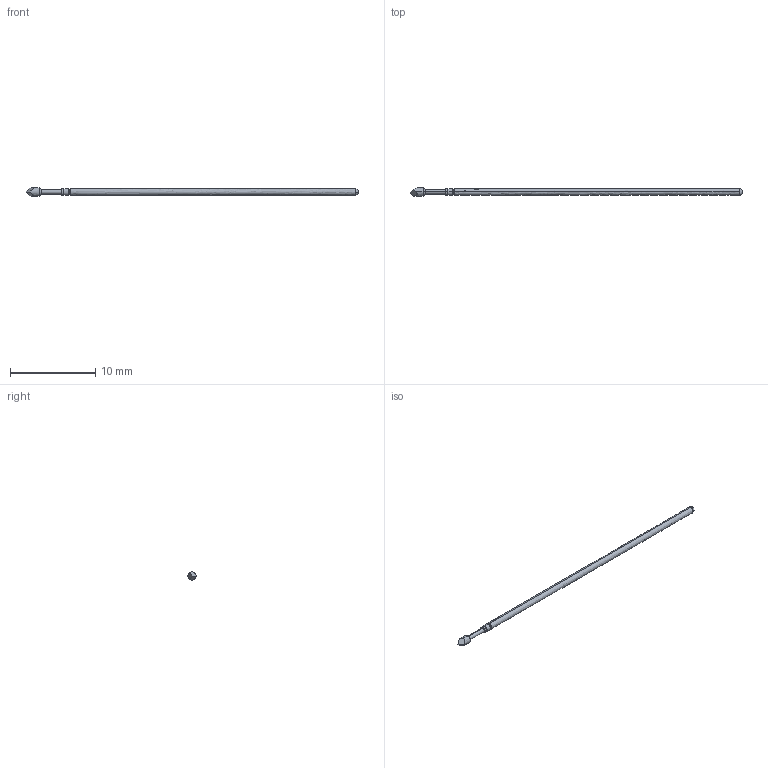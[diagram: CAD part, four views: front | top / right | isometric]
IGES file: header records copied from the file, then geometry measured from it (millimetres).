
Start section: SolidWorks IGES file using analytic representation for surfaces
Global section: file name: L:\probe solid model mockups\Solidworks models\POGO-72T38 RECD.IGS; native system: SolidWorks 2006 by SolidWorks Corporation; preprocessor: SolidWorks 2006 by SolidWorks Corporation; author: Ksnyder; date: 071211.140152; units: inch
Bounding box: 38.94 x 0.97 x 0.97 mm (x, y, z)
Volume: 29 mm3; surface area: 177.6 mm2
Topology: 1 solids, 1 shells, 25 faces, 54 edges, 30 vertices
Faces by surface type: revolution 20, plane 5
